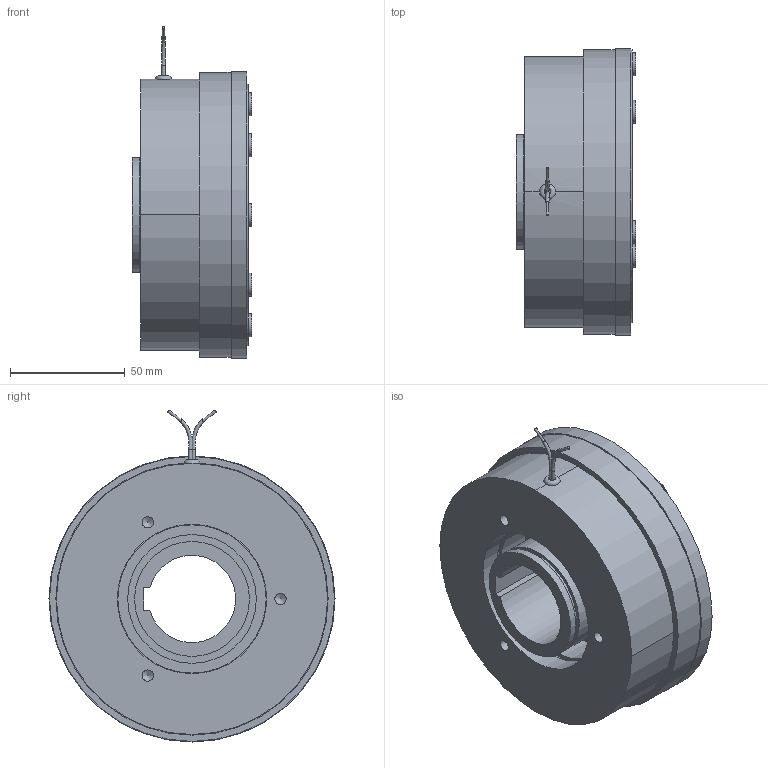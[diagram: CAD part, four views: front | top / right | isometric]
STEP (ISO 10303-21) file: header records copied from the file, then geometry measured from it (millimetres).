
FILE_DESCRIPTION(/* description */ (''),/* implementation_level */ '2;1');
FILE_NAME(/* name */ 'X:\INVENTOR\DISEGNI\08_Freni_Friz_Elettmag_Monodisco\08_26 EMSL_DF\EMSL_DF STEP\08_26_120_21 EMSL120_DF-BM@STEP.stp',/* time_stamp */ '2018-04-24T08:23:17+02:00',/* author */ ('stefano'),/* organization */ (''),/* preprocessor_version */ 'ST-DEVELOPER v17',/* originating_system */ 'Autodesk Inventor 2018',/* authorisation */ '');
FILE_SCHEMA (('AUTOMOTIVE_DESIGN { 1 0 10303 214 3 1 1 }'));
Length unit declared in the file: millimetre
Products named in the file (1): 08_26_120_21 EMSL120_DF-BM_Substitute_1
Bounding box: 52 x 124.5 x 144.47 mm (x, y, z)
Volume: 413404.3 mm3; surface area: 109859.8 mm2
Topology: 4 solids, 4 shells, 232 faces, 651 edges, 455 vertices
Faces by surface type: cylinder 160, plane 53, cone 16, bspline 2, torus 1
Full cylindrical faces by diameter (mm): 1.154 x2, 1.5 x1, 2.2 x6, 4.917 x3, 6 x1, 6.1 x3, 7.5 x6, 10 x6, 47 x1, 50 x2, 56 x1, 59 x1, 64.5 x1, 65 x2, 68 x1, 77 x1, 110.5 x1, 118.5 x1, 124 x1, 124.5 x1
Entity records: 8404 total; most frequent: CARTESIAN_POINT 1555, DIRECTION 1554, ORIENTED_EDGE 1298, AXIS2_PLACEMENT_3D 682, EDGE_CURVE 649, VERTEX_POINT 456, CIRCLE 451, EDGE_LOOP 326
